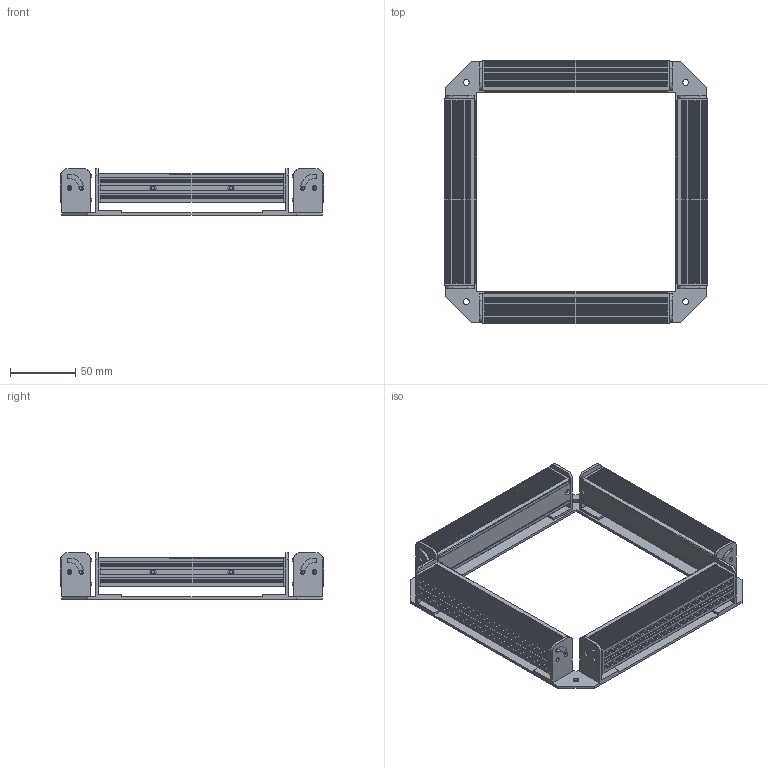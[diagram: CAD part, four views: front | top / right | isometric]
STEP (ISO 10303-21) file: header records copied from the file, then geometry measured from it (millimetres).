
FILE_DESCRIPTION((''),'2;1');
FILE_NAME('MSL-102-102_ASM','2020-03-26T',('ASUS'),(''),'PRO/ENGINEER BY PARAMETRIC TECHNOLOGY CORPORATION, 2008380','PRO/ENGINEER BY PARAMETRIC TECHNOLOGY CORPORATION, 2008380','');
FILE_SCHEMA(('CONFIG_CONTROL_DESIGN'));
Length unit declared in the file: millimetre
Products named in the file (3): PRT0002; PRT0006; MSL-102-102_ASM
Assembly tree (5 placements, depth 2):
  MSL-102-102_ASM
    PRT0002
    PRT0006  x4
Bounding box: 202.04 x 202.04 x 36 mm (x, y, z)
Volume: 314856.7 mm3; surface area: 153676.8 mm2
Topology: 5 solids, 21 shells, 1238 faces, 3324 edges, 2200 vertices
Faces by surface type: plane 742, cylinder 416, cone 80
Entity records: 13330 total; most frequent: CARTESIAN_POINT 2444, DIRECTION 2266, ORIENTED_EDGE 2224, EDGE_CURVE 1120, VECTOR 764, LINE 764, AXIS2_PLACEMENT_3D 751, VERTEX_POINT 748
